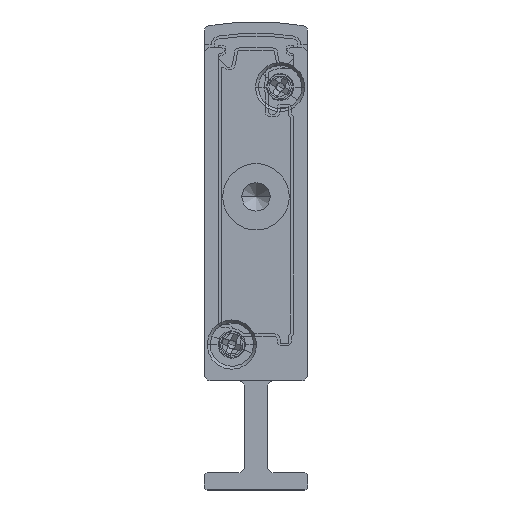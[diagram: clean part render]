
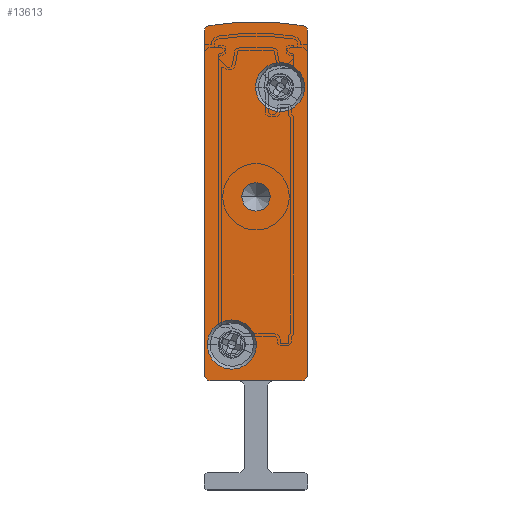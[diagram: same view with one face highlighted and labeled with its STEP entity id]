
A CAD part, front view. The second image highlights one B-rep face of the part: STEP entity #13613.
In plain terms, the highlighted planar face has unit normal (0, -1, 0).
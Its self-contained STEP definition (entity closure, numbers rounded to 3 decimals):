
#158 = CARTESIAN_POINT ( 'NONE',  ( 0., -2.5, 39.902 ) ) ;
#219 = VERTEX_POINT ( 'NONE', #27305 ) ;
#344 = VERTEX_POINT ( 'NONE', #17789 ) ;
#800 = EDGE_CURVE ( 'NONE', #219, #6507, #15684, .T. ) ;
#912 = CIRCLE ( 'NONE', #4540, 0.5 ) ;
#1022 = DIRECTION ( 'NONE',  ( 0., -1., 0. ) ) ;
#1161 = LINE ( 'NONE', #9734, #6389 ) ;
#1705 = CARTESIAN_POINT ( 'NONE',  ( 2.4, -2.5, 12.65 ) ) ;
#1760 = DIRECTION ( 'NONE',  ( 0., 1., 0. ) ) ;
#1897 = EDGE_CURVE ( 'NONE', #10072, #2948, #15103, .T. ) ;
#2384 = CIRCLE ( 'NONE', #17188, 2.15 ) ;
#2587 = ORIENTED_EDGE ( 'NONE', *, *, #10871, .F. ) ;
#2948 = VERTEX_POINT ( 'NONE', #8253 ) ;
#2990 = VERTEX_POINT ( 'NONE', #158 ) ;
#3879 = ORIENTED_EDGE ( 'NONE', *, *, #21695, .F. ) ;
#3963 = CARTESIAN_POINT ( 'NONE',  ( 0.408, -2.5, 40.393 ) ) ;
#4110 = AXIS2_PLACEMENT_3D ( 'NONE', #10129, #18074, #5027 ) ;
#4272 = CARTESIAN_POINT ( 'NONE',  ( 0., -2.5, 39.902 ) ) ;
#4520 = DIRECTION ( 'NONE',  ( -1., 0., 0. ) ) ;
#4540 = AXIS2_PLACEMENT_3D ( 'NONE', #18194, #26235, #18392 ) ;
#4630 = AXIS2_PLACEMENT_3D ( 'NONE', #24349, #1022, #13710 ) ;
#5027 = DIRECTION ( 'NONE',  ( 1., 0., 0. ) ) ;
#5528 = EDGE_CURVE ( 'NONE', #2948, #10072, #24098, .T. ) ;
#5772 = DIRECTION ( 'NONE',  ( -1., 0., 0. ) ) ;
#5951 = EDGE_LOOP ( 'NONE', ( #6313, #3879 ) ) ;
#6076 = ORIENTED_EDGE ( 'NONE', *, *, #8138, .F. ) ;
#6244 = CARTESIAN_POINT ( 'NONE',  ( 4.5, -2.5, 17.092 ) ) ;
#6313 = ORIENTED_EDGE ( 'NONE', *, *, #28578, .F. ) ;
#6389 = VECTOR ( 'NONE', #20613, 1000. ) ;
#6507 = VERTEX_POINT ( 'NONE', #6914 ) ;
#6536 = DIRECTION ( 'NONE',  ( 0., -1., 0. ) ) ;
#6781 = ORIENTED_EDGE ( 'NONE', *, *, #12784, .F. ) ;
#6914 = CARTESIAN_POINT ( 'NONE',  ( 0.5, -2.5, 9.5 ) ) ;
#7197 = DIRECTION ( 'NONE',  ( 0., 1., 0. ) ) ;
#7413 = CIRCLE ( 'NONE', #25358, 0.5 ) ;
#7567 = CARTESIAN_POINT ( 'NONE',  ( 8.75, -2.5, 35.05 ) ) ;
#7657 = CARTESIAN_POINT ( 'NONE',  ( 4.45, -2.5, 35.05 ) ) ;
#8138 = EDGE_CURVE ( 'NONE', #31127, #344, #912, .T. ) ;
#8243 = EDGE_CURVE ( 'NONE', #9732, #31127, #20616, .T. ) ;
#8253 = CARTESIAN_POINT ( 'NONE',  ( 5.75, -2.5, 25.5 ) ) ;
#8286 = ORIENTED_EDGE ( 'NONE', *, *, #20101, .F. ) ;
#8740 = CARTESIAN_POINT ( 'NONE',  ( 9., -2.5, 10. ) ) ;
#9516 = FACE_OUTER_BOUND ( 'NONE', #14336, .T. ) ;
#9521 = CARTESIAN_POINT ( 'NONE',  ( 8.592, -2.5, 40.393 ) ) ;
#9534 = EDGE_LOOP ( 'NONE', ( #2587, #8286 ) ) ;
#9732 = VERTEX_POINT ( 'NONE', #3963 ) ;
#9734 = CARTESIAN_POINT ( 'NONE',  ( 9., -2.5, 39.902 ) ) ;
#9762 = CARTESIAN_POINT ( 'NONE',  ( 4.5, -2.5, 25.5 ) ) ;
#9881 = DIRECTION ( 'NONE',  ( -1., 0., 0. ) ) ;
#10072 = VERTEX_POINT ( 'NONE', #26719 ) ;
#10129 = CARTESIAN_POINT ( 'NONE',  ( 2.4, -2.5, 12.65 ) ) ;
#10758 = DIRECTION ( 'NONE',  ( 0., -1., 0. ) ) ;
#10854 = VECTOR ( 'NONE', #24882, 1000. ) ;
#10871 = EDGE_CURVE ( 'NONE', #28532, #14552, #16181, .T. ) ;
#11098 = DIRECTION ( 'NONE',  ( -1., 0., 0. ) ) ;
#11106 = FACE_BOUND ( 'NONE', #27084, .T. ) ;
#11465 = ORIENTED_EDGE ( 'NONE', *, *, #17364, .F. ) ;
#12061 = DIRECTION ( 'NONE',  ( 0., 0., 1. ) ) ;
#12436 = ORIENTED_EDGE ( 'NONE', *, *, #800, .F. ) ;
#12784 = EDGE_CURVE ( 'NONE', #344, #22003, #1161, .T. ) ;
#13510 = FACE_BOUND ( 'NONE', #5951, .T. ) ;
#13613 = ADVANCED_FACE ( 'NONE', ( #13510, #17952, #9516, #11106 ), #23927, .F. ) ;
#13710 = DIRECTION ( 'NONE',  ( 1., 0., 0. ) ) ;
#13818 = VERTEX_POINT ( 'NONE', #30749 ) ;
#14336 = EDGE_LOOP ( 'NONE', ( #11465, #22825, #31350, #12436, #20866, #6781, #6076, #21294 ) ) ;
#14552 = VERTEX_POINT ( 'NONE', #15061 ) ;
#14913 = CIRCLE ( 'NONE', #32529, 0.5 ) ;
#15061 = CARTESIAN_POINT ( 'NONE',  ( 0.25, -2.5, 12.65 ) ) ;
#15103 = CIRCLE ( 'NONE', #25011, 1.25 ) ;
#15156 = CIRCLE ( 'NONE', #20220, 2.15 ) ;
#15192 = LINE ( 'NONE', #4272, #33380 ) ;
#15684 = LINE ( 'NONE', #22760, #10854 ) ;
#15703 = DIRECTION ( 'NONE',  ( -1., 0., 0. ) ) ;
#16041 = DIRECTION ( 'NONE',  ( -1., 0., 0. ) ) ;
#16117 = DIRECTION ( 'NONE',  ( 0., 1., 0. ) ) ;
#16181 = CIRCLE ( 'NONE', #4110, 2.15 ) ;
#16376 = AXIS2_PLACEMENT_3D ( 'NONE', #29107, #16117, #5772 ) ;
#16518 = CIRCLE ( 'NONE', #4630, 2.15 ) ;
#16687 = ORIENTED_EDGE ( 'NONE', *, *, #1897, .T. ) ;
#17188 = AXIS2_PLACEMENT_3D ( 'NONE', #1705, #6536, #24478 ) ;
#17364 = EDGE_CURVE ( 'NONE', #2990, #9732, #7413, .T. ) ;
#17789 = CARTESIAN_POINT ( 'NONE',  ( 9., -2.5, 39.902 ) ) ;
#17952 = FACE_BOUND ( 'NONE', #9534, .T. ) ;
#18074 = DIRECTION ( 'NONE',  ( 0., -1., 0. ) ) ;
#18194 = CARTESIAN_POINT ( 'NONE',  ( 8.5, -2.5, 39.902 ) ) ;
#18392 = DIRECTION ( 'NONE',  ( -1., 0., 0. ) ) ;
#19253 = EDGE_CURVE ( 'NONE', #22003, #219, #14913, .T. ) ;
#19402 = AXIS2_PLACEMENT_3D ( 'NONE', #6244, #29252, #11098 ) ;
#19587 = DIRECTION ( 'NONE',  ( 0., 1., 0. ) ) ;
#19685 = CIRCLE ( 'NONE', #31668, 0.5 ) ;
#20101 = EDGE_CURVE ( 'NONE', #14552, #28532, #2384, .T. ) ;
#20220 = AXIS2_PLACEMENT_3D ( 'NONE', #31090, #10758, #28492 ) ;
#20613 = DIRECTION ( 'NONE',  ( 0., 0., -1. ) ) ;
#20616 = CIRCLE ( 'NONE', #19402, 23.658 ) ;
#20866 = ORIENTED_EDGE ( 'NONE', *, *, #19253, .F. ) ;
#21294 = ORIENTED_EDGE ( 'NONE', *, *, #8243, .F. ) ;
#21351 = VERTEX_POINT ( 'NONE', #7657 ) ;
#21695 = EDGE_CURVE ( 'NONE', #21351, #31358, #15156, .T. ) ;
#22003 = VERTEX_POINT ( 'NONE', #8740 ) ;
#22560 = CARTESIAN_POINT ( 'NONE',  ( 4.5, -2.5, 25.5 ) ) ;
#22634 = CARTESIAN_POINT ( 'NONE',  ( 0.5, -2.5, 10. ) ) ;
#22760 = CARTESIAN_POINT ( 'NONE',  ( 0.5, -2.5, 9.5 ) ) ;
#22825 = ORIENTED_EDGE ( 'NONE', *, *, #25676, .F. ) ;
#22977 = DIRECTION ( 'NONE',  ( 0., 1., 0. ) ) ;
#23927 = PLANE ( 'NONE',  #16376 ) ;
#24098 = CIRCLE ( 'NONE', #28472, 1.25 ) ;
#24349 = CARTESIAN_POINT ( 'NONE',  ( 6.6, -2.5, 35.05 ) ) ;
#24478 = DIRECTION ( 'NONE',  ( 1., 0., 0. ) ) ;
#24642 = ORIENTED_EDGE ( 'NONE', *, *, #5528, .T. ) ;
#24882 = DIRECTION ( 'NONE',  ( -1., 0., 0. ) ) ;
#25011 = AXIS2_PLACEMENT_3D ( 'NONE', #9762, #1760, #30275 ) ;
#25358 = AXIS2_PLACEMENT_3D ( 'NONE', #27820, #29047, #16041 ) ;
#25576 = CARTESIAN_POINT ( 'NONE',  ( 8.5, -2.5, 10. ) ) ;
#25676 = EDGE_CURVE ( 'NONE', #13818, #2990, #15192, .T. ) ;
#26170 = CARTESIAN_POINT ( 'NONE',  ( 4.55, -2.5, 12.65 ) ) ;
#26235 = DIRECTION ( 'NONE',  ( 0., 1., 0. ) ) ;
#26719 = CARTESIAN_POINT ( 'NONE',  ( 3.25, -2.5, 25.5 ) ) ;
#27084 = EDGE_LOOP ( 'NONE', ( #16687, #24642 ) ) ;
#27305 = CARTESIAN_POINT ( 'NONE',  ( 8.5, -2.5, 9.5 ) ) ;
#27820 = CARTESIAN_POINT ( 'NONE',  ( 0.5, -2.5, 39.902 ) ) ;
#28472 = AXIS2_PLACEMENT_3D ( 'NONE', #22560, #19587, #4520 ) ;
#28492 = DIRECTION ( 'NONE',  ( 1., 0., 0. ) ) ;
#28532 = VERTEX_POINT ( 'NONE', #26170 ) ;
#28578 = EDGE_CURVE ( 'NONE', #31358, #21351, #16518, .T. ) ;
#29047 = DIRECTION ( 'NONE',  ( 0., 1., 0. ) ) ;
#29107 = CARTESIAN_POINT ( 'NONE',  ( 0.5, -2.5, 39.902 ) ) ;
#29252 = DIRECTION ( 'NONE',  ( 0., 1., 0. ) ) ;
#30275 = DIRECTION ( 'NONE',  ( -1., 0., 0. ) ) ;
#30749 = CARTESIAN_POINT ( 'NONE',  ( 0., -2.5, 10. ) ) ;
#31090 = CARTESIAN_POINT ( 'NONE',  ( 6.6, -2.5, 35.05 ) ) ;
#31127 = VERTEX_POINT ( 'NONE', #9521 ) ;
#31350 = ORIENTED_EDGE ( 'NONE', *, *, #32840, .F. ) ;
#31358 = VERTEX_POINT ( 'NONE', #7567 ) ;
#31668 = AXIS2_PLACEMENT_3D ( 'NONE', #22634, #7197, #15703 ) ;
#32529 = AXIS2_PLACEMENT_3D ( 'NONE', #25576, #22977, #9881 ) ;
#32840 = EDGE_CURVE ( 'NONE', #6507, #13818, #19685, .T. ) ;
#33380 = VECTOR ( 'NONE', #12061, 1000. ) ;
